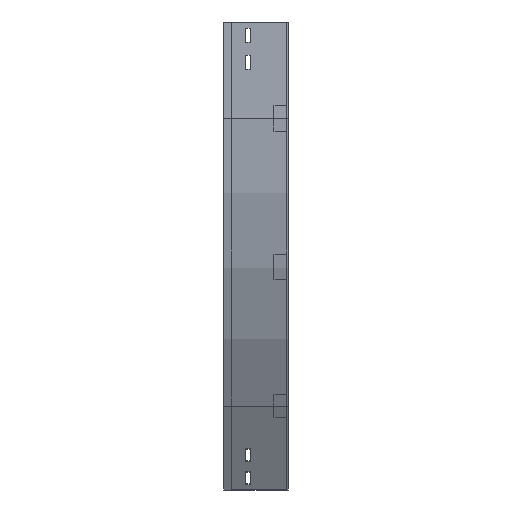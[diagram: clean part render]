
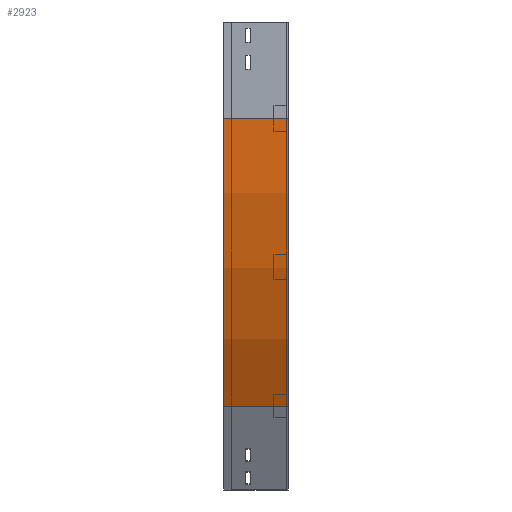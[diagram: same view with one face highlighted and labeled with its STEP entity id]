
A CAD part, left-side view. The second image highlights one B-rep face of the part: STEP entity #2923.
In plain terms, the highlighted cylindrical face has radius 900 mm (diameter 1800 mm), a partial arc.
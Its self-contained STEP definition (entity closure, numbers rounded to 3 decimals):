
#16 = DIRECTION ( 'NONE',  ( -1., 0., 0. ) ) ;
#70 = CIRCLE ( 'NONE', #1711, 900. ) ;
#128 = CYLINDRICAL_SURFACE ( 'NONE', #3586, 900. ) ;
#272 = CARTESIAN_POINT ( 'NONE',  ( 120.577, 0., -600. ) ) ;
#310 = DIRECTION ( 'NONE',  ( 0., -1., 0. ) ) ;
#311 = ORIENTED_EDGE ( 'NONE', *, *, #2834, .T. ) ;
#329 = EDGE_CURVE ( 'NONE', #1664, #1439, #635, .T. ) ;
#399 = EDGE_CURVE ( 'NONE', #3659, #1439, #70, .T. ) ;
#465 = CARTESIAN_POINT ( 'NONE',  ( 120.577, 100., -600. ) ) ;
#635 = LINE ( 'NONE', #272, #759 ) ;
#645 = DIRECTION ( 'NONE',  ( 0., -1., 0. ) ) ;
#751 = ORIENTED_EDGE ( 'NONE', *, *, #2466, .F. ) ;
#759 = VECTOR ( 'NONE', #3328, 1000. ) ;
#920 = DIRECTION ( 'NONE',  ( 0., -1., 0. ) ) ;
#1015 = EDGE_LOOP ( 'NONE', ( #3213, #751, #311, #3056 ) ) ;
#1244 = LINE ( 'NONE', #1847, #3764 ) ;
#1399 = CARTESIAN_POINT ( 'NONE',  ( 0., 100., -150. ) ) ;
#1439 = VERTEX_POINT ( 'NONE', #2942 ) ;
#1492 = CARTESIAN_POINT ( 'NONE',  ( 900., 0., -150. ) ) ;
#1549 = CARTESIAN_POINT ( 'NONE',  ( 900., 0., -150. ) ) ;
#1664 = VERTEX_POINT ( 'NONE', #465 ) ;
#1711 = AXIS2_PLACEMENT_3D ( 'NONE', #1492, #920, #16 ) ;
#1847 = CARTESIAN_POINT ( 'NONE',  ( 0., 0., -150. ) ) ;
#2205 = FACE_OUTER_BOUND ( 'NONE', #1015, .T. ) ;
#2342 = AXIS2_PLACEMENT_3D ( 'NONE', #3571, #310, #3534 ) ;
#2466 = EDGE_CURVE ( 'NONE', #3080, #3659, #1244, .T. ) ;
#2736 = DIRECTION ( 'NONE',  ( 0., -1., 0. ) ) ;
#2834 = EDGE_CURVE ( 'NONE', #3080, #1664, #3463, .T. ) ;
#2923 = ADVANCED_FACE ( 'NONE', ( #2205 ), #128, .T. ) ;
#2942 = CARTESIAN_POINT ( 'NONE',  ( 120.577, 0., -600. ) ) ;
#2944 = CARTESIAN_POINT ( 'NONE',  ( 0., 0., -150. ) ) ;
#3056 = ORIENTED_EDGE ( 'NONE', *, *, #329, .T. ) ;
#3080 = VERTEX_POINT ( 'NONE', #1399 ) ;
#3213 = ORIENTED_EDGE ( 'NONE', *, *, #399, .F. ) ;
#3328 = DIRECTION ( 'NONE',  ( 0., -1., 0. ) ) ;
#3393 = DIRECTION ( 'NONE',  ( 0., 0., -1. ) ) ;
#3463 = CIRCLE ( 'NONE', #2342, 900. ) ;
#3534 = DIRECTION ( 'NONE',  ( -1., 0., 0. ) ) ;
#3571 = CARTESIAN_POINT ( 'NONE',  ( 900., 100., -150. ) ) ;
#3586 = AXIS2_PLACEMENT_3D ( 'NONE', #1549, #2736, #3393 ) ;
#3659 = VERTEX_POINT ( 'NONE', #2944 ) ;
#3764 = VECTOR ( 'NONE', #645, 1000. ) ;
